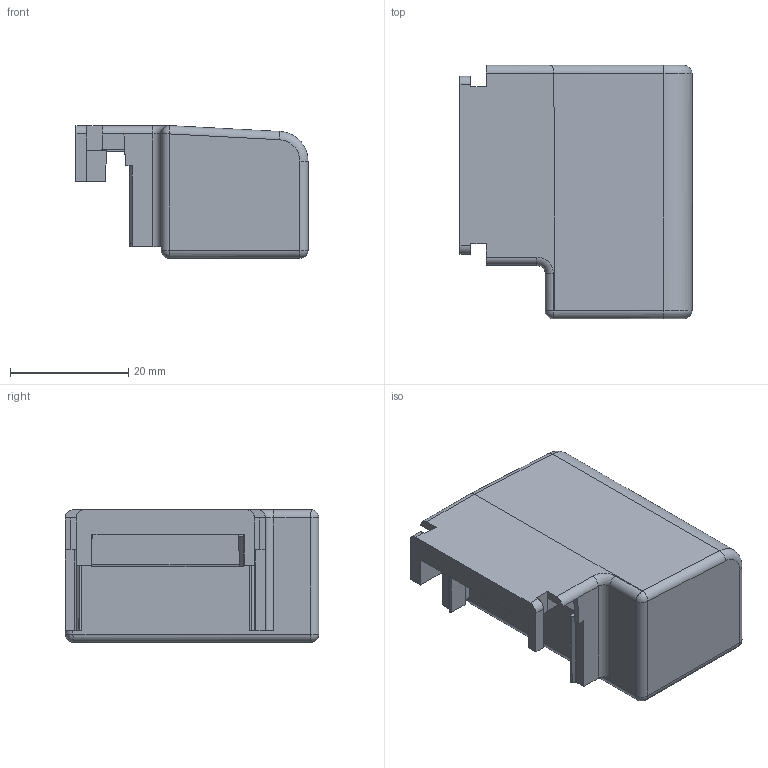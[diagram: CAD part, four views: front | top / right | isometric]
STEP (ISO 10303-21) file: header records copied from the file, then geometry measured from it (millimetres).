
FILE_DESCRIPTION((''),'2;1');
FILE_NAME('15010495_00_SR_66_N4M_SEC','2018-11-20T14:44:24',('Emanuel.Wild'),(''),'CREO PARAMETRIC BY PTC INC, 2017380','CREO PARAMETRIC BY PTC INC, 2017380','');
FILE_SCHEMA(('AUTOMOTIVE_DESIGN { 1 0 10303 214 1 1 1 1 }'));
Length unit declared in the file: millimetre
Products named in the file (1): 15010495_00_SR_66_N4M_SEC
Bounding box: 39.19 x 42.81 x 22.39 mm (x, y, z)
Volume: 21941.4 mm3; surface area: 7896.9 mm2
Topology: 1 solids, 5 shells, 133 faces, 339 edges, 212 vertices
Faces by surface type: plane 87, cylinder 35, sphere 4, torus 3, extrusion 3, bspline 1
Entity records: 6769 total; most frequent: CARTESIAN_POINT 1201, ORIENTED_EDGE 662, DIRECTION 618, PRESENTATION_STYLE_ASSIGNMENT 469, STYLED_ITEM 340, CURVE_STYLE 337, EDGE_CURVE 335, VECTOR 250
